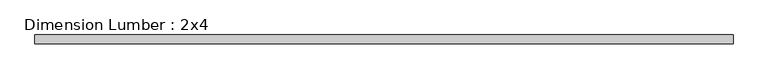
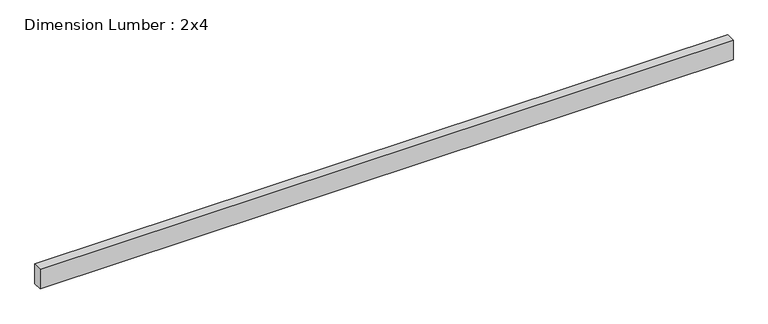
"""IFC4 building model written with IfcOpenShell, lengths in millimetres: beam geometry, Dimension Lumber : 2x4."""

from ifc_helpers import new_model, si_unit, frame, origin, place, context, project, spatial, polyline, outline, extrude, source, transform, mapped, element, save


def dimension_lumber_2x4_35f39350(model_context):
    return source(origin(), model_context, "Body", "SweptSolid", [
        extrude(outline(polyline([(1470.6699219, -19.05), (-1470.6699219, -19.05), (-1470.6699219, 19.05), (1470.6699219, 19.05), (1470.6699219, -19.05)])), frame((0.0, 0.0, -44.45), z_axis=(0.0, 0.0, 1.0), x_axis=(1.0, 0.0, 0.0)), (0.0, 0.0, 1.0), 88.9),
    ])


if __name__ == "__main__":
    model = new_model("IFC4")
    model_context = context("Model", 3, world=origin())
    ifc_project = project(units=[si_unit("LENGTHUNIT", "METRE", prefix="MILLI")], contexts=[model_context])
    site = spatial("IfcSite", under=ifc_project)
    building = spatial("IfcBuilding", under=site)
    placement = place(None, origin())
    dimension_lumber_2x4_shape = dimension_lumber_2x4_35f39350(model_context)
    element("IfcBeam", 1, ObjectType="Dimension Lumber : 2x4", at=placement, inside=building, context=model_context, shape_type="MappedRepresentation", body=[
        mapped(dimension_lumber_2x4_shape, transform((0.0, 0.0, 0.0), x_axis=(1.0, 0.0, 0.0), y_axis=(0.0, 1.0, 0.0), z_axis=(0.0, 0.0, 1.0))),
    ])
    save(model, "model.ifc")
